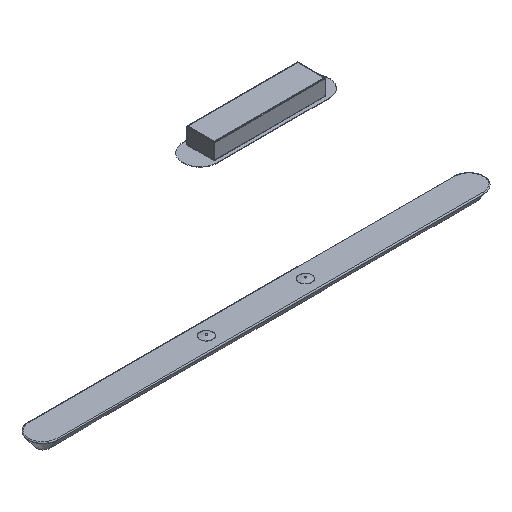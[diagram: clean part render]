
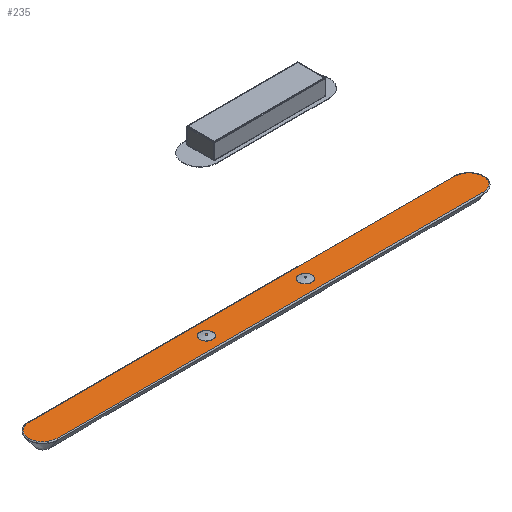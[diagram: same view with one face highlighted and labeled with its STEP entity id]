
A CAD part, isometric view. The second image highlights one B-rep face of the part: STEP entity #235.
In plain terms, the highlighted planar face has unit normal (0, 0, 1).
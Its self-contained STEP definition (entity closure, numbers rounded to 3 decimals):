
#82=(
BOUNDED_CURVE()
B_SPLINE_CURVE(2,(#5062,#5063,#5064),.UNSPECIFIED.,.F.,.F.)
B_SPLINE_CURVE_WITH_KNOTS((3,3),(0.,51.2),.UNSPECIFIED.)
CURVE()
GEOMETRIC_REPRESENTATION_ITEM()
RATIONAL_B_SPLINE_CURVE((1.,0.707,1.))
REPRESENTATION_ITEM('')
);
#83=(
BOUNDED_CURVE()
B_SPLINE_CURVE(2,(#5065,#5066,#5067),.UNSPECIFIED.,.F.,.F.)
B_SPLINE_CURVE_WITH_KNOTS((3,3),(51.2,102.401),
 .UNSPECIFIED.)
CURVE()
GEOMETRIC_REPRESENTATION_ITEM()
RATIONAL_B_SPLINE_CURVE((1.,0.707,1.))
REPRESENTATION_ITEM('')
);
#91=(
BOUNDED_CURVE()
B_SPLINE_CURVE(2,(#5091,#5092,#5093),.UNSPECIFIED.,.F.,.F.)
B_SPLINE_CURVE_WITH_KNOTS((3,3),(0.,51.2),.UNSPECIFIED.)
CURVE()
GEOMETRIC_REPRESENTATION_ITEM()
RATIONAL_B_SPLINE_CURVE((1.,0.707,1.))
REPRESENTATION_ITEM('')
);
#92=(
BOUNDED_CURVE()
B_SPLINE_CURVE(2,(#5094,#5095,#5096),.UNSPECIFIED.,.F.,.F.)
B_SPLINE_CURVE_WITH_KNOTS((3,3),(51.2,102.401),
 .UNSPECIFIED.)
CURVE()
GEOMETRIC_REPRESENTATION_ITEM()
RATIONAL_B_SPLINE_CURVE((1.,0.707,1.))
REPRESENTATION_ITEM('')
);
#235=ADVANCED_FACE('',(#368),#2059,.T.);
#368=FACE_OUTER_BOUND('',#508,.T.);
#508=EDGE_LOOP('',(#1071,#1072,#1073,#1074,#1075,#1076));
#1071=ORIENTED_EDGE('',*,*,#1444,.F.);
#1072=ORIENTED_EDGE('',*,*,#1477,.F.);
#1073=ORIENTED_EDGE('',*,*,#1476,.F.);
#1074=ORIENTED_EDGE('',*,*,#1469,.F.);
#1075=ORIENTED_EDGE('',*,*,#1486,.F.);
#1076=ORIENTED_EDGE('',*,*,#1485,.F.);
#1444=EDGE_CURVE('',#1940,#1937,#1720,.T.);
#1469=EDGE_CURVE('',#1957,#1958,#1745,.T.);
#1476=EDGE_CURVE('',#1958,#1962,#82,.T.);
#1477=EDGE_CURVE('',#1962,#1940,#83,.T.);
#1485=EDGE_CURVE('',#1937,#1965,#91,.T.);
#1486=EDGE_CURVE('',#1965,#1957,#92,.T.);
#1720=B_SPLINE_CURVE_WITH_KNOTS('',1,(#4992,#4993),.UNSPECIFIED.,.F.,.F.,
(2,2),(0.,990.),.UNSPECIFIED.);
#1745=B_SPLINE_CURVE_WITH_KNOTS('',1,(#5042,#5043),.UNSPECIFIED.,.F.,.F.,
(2,2),(0.,990.),.UNSPECIFIED.);
#1937=VERTEX_POINT('',#4852);
#1940=VERTEX_POINT('',#4855);
#1957=VERTEX_POINT('',#4872);
#1958=VERTEX_POINT('',#4873);
#1962=VERTEX_POINT('',#4877);
#1965=VERTEX_POINT('',#4880);
#2059=PLANE('',#2264);
#2264=AXIS2_PLACEMENT_3D('',#4115,#2369,$);
#2369=DIRECTION('',(0.,0.,1.));
#4115=CARTESIAN_POINT('',(596.234,46.734,10.));
#4852=CARTESIAN_POINT('',(458.,40.095,10.));
#4855=CARTESIAN_POINT('',(-532.,40.095,10.));
#4872=CARTESIAN_POINT('',(458.,-25.095,10.));
#4873=CARTESIAN_POINT('',(-532.,-25.095,10.));
#4877=CARTESIAN_POINT('',(-564.595,7.5,10.));
#4880=CARTESIAN_POINT('',(490.595,7.5,10.));
#4992=CARTESIAN_POINT('',(-532.,40.095,10.));
#4993=CARTESIAN_POINT('',(458.,40.095,10.));
#5042=CARTESIAN_POINT('',(458.,-25.095,10.));
#5043=CARTESIAN_POINT('',(-532.,-25.095,10.));
#5062=CARTESIAN_POINT('',(-532.,-25.095,10.));
#5063=CARTESIAN_POINT('',(-564.595,-25.095,10.));
#5064=CARTESIAN_POINT('',(-564.595,7.5,10.));
#5065=CARTESIAN_POINT('',(-564.595,7.5,10.));
#5066=CARTESIAN_POINT('',(-564.595,40.095,10.));
#5067=CARTESIAN_POINT('',(-532.,40.095,10.));
#5091=CARTESIAN_POINT('',(458.,40.095,10.));
#5092=CARTESIAN_POINT('',(490.595,40.095,10.));
#5093=CARTESIAN_POINT('',(490.595,7.5,10.));
#5094=CARTESIAN_POINT('',(490.595,7.5,10.));
#5095=CARTESIAN_POINT('',(490.595,-25.095,10.));
#5096=CARTESIAN_POINT('',(458.,-25.095,10.));
